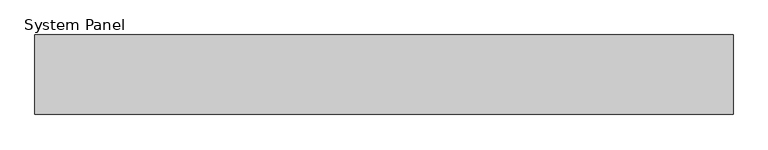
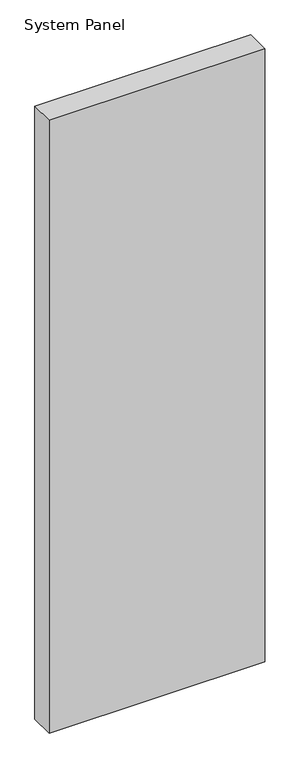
"""IFC4 building model written with IfcOpenShell, lengths in millimetres: plate geometry, System Panel : MetecnoPanel_125mm_Plain_Surfmist."""

from ifc_helpers import new_model, si_unit, origin, origin_with_axes, place, context, project, spatial, polyline, outline, extrude, source, transform, mapped, element, save


def system_panel_6af241ba(model_context):
    return source(origin(), model_context, "Body", "SweptSolid", [
        extrude(outline(polyline([(550.0, 0.0), (-550.0, 0.0), (-550.0, 125.0), (550.0, 125.0), (550.0, 0.0)])), origin_with_axes(), (0.0, 0.0, 1.0), 3300.0),
    ])


if __name__ == "__main__":
    model = new_model("IFC4")
    model_context = context("Model", 3, world=origin())
    ifc_project = project(units=[si_unit("LENGTHUNIT", "METRE", prefix="MILLI")], contexts=[model_context])
    site = spatial("IfcSite", under=ifc_project)
    building = spatial("IfcBuilding", under=site)
    placement = place(None, origin())
    system_panel_shape = system_panel_6af241ba(model_context)
    element("IfcPlate", 1, ObjectType="System Panel : MetecnoPanel_125mm_Plain_Surfmist", at=placement, inside=building, context=model_context, shape_type="MappedRepresentation", body=[
        mapped(system_panel_shape, transform((0.0, 0.0, 0.0), x_axis=(1.0, 0.0, 0.0), y_axis=(0.0, 1.0, 0.0), z_axis=(0.0, 0.0, 1.0))),
    ])
    save(model, "model.ifc")
